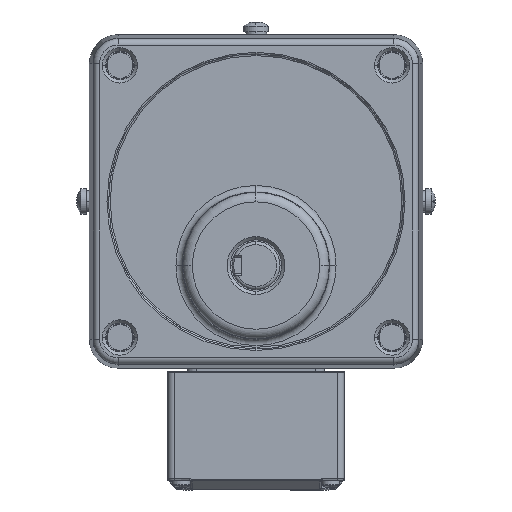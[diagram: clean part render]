
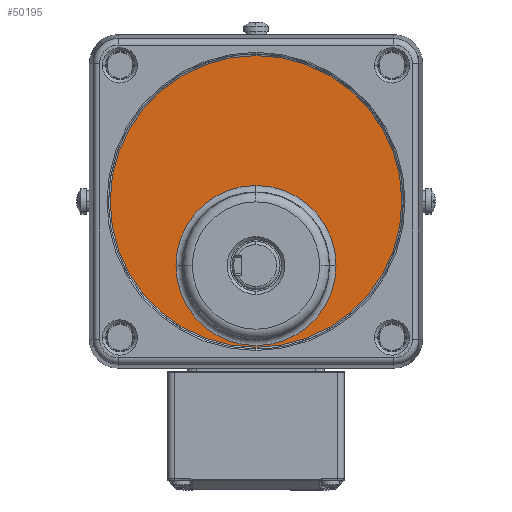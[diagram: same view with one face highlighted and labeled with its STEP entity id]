
A CAD part, left-side view. The second image highlights one B-rep face of the part: STEP entity #50195.
In plain terms, the highlighted planar face has unit normal (-1, 0, 0).
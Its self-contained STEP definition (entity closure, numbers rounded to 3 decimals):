
#202 = AXIS2_PLACEMENT_3D ( 'NONE', #43951, #5357, #22481 ) ;
#3843 = CIRCLE ( 'NONE', #35182, 24.965 ) ;
#3927 = CARTESIAN_POINT ( 'NONE',  ( 2949.725, -773.74, 45.491 ) ) ;
#5357 = DIRECTION ( 'NONE',  ( -1., 0., 0. ) ) ;
#6547 = DIRECTION ( 'NONE',  ( -1., 0., 0. ) ) ;
#6632 = VERTEX_POINT ( 'NONE', #33723 ) ;
#7379 = VERTEX_POINT ( 'NONE', #16690 ) ;
#7734 = ORIENTED_EDGE ( 'NONE', *, *, #24883, .F. ) ;
#8840 = EDGE_CURVE ( 'NONE', #55050, #7379, #3843, .T. ) ;
#10860 = DIRECTION ( 'NONE',  ( -1., 0., 0. ) ) ;
#11988 = VERTEX_POINT ( 'NONE', #18860 ) ;
#12984 = DIRECTION ( 'NONE',  ( -1., 0., 0. ) ) ;
#13063 = EDGE_CURVE ( 'NONE', #11988, #16903, #38130, .T. ) ;
#15086 = FACE_BOUND ( 'NONE', #39198, .T. ) ;
#15688 = CIRCLE ( 'NONE', #22855, 45.491 ) ;
#16690 = CARTESIAN_POINT ( 'NONE',  ( 2949.725, -798.705, -20. ) ) ;
#16903 = VERTEX_POINT ( 'NONE', #3927 ) ;
#17484 = CARTESIAN_POINT ( 'NONE',  ( 2949.725, -773.74, 0. ) ) ;
#18860 = CARTESIAN_POINT ( 'NONE',  ( 2949.725, -773.74, -45.491 ) ) ;
#19866 = CARTESIAN_POINT ( 'NONE',  ( 2949.725, -773.74, 0. ) ) ;
#20750 = EDGE_LOOP ( 'NONE', ( #30433, #7734 ) ) ;
#21063 = AXIS2_PLACEMENT_3D ( 'NONE', #17484, #34597, #51980 ) ;
#22398 = AXIS2_PLACEMENT_3D ( 'NONE', #51692, #12984, #30102 ) ;
#22438 = CARTESIAN_POINT ( 'NONE',  ( 2949.725, -748.775, -20. ) ) ;
#22481 = DIRECTION ( 'NONE',  ( 0., -1., 0. ) ) ;
#22855 = AXIS2_PLACEMENT_3D ( 'NONE', #19866, #36985, #54410 ) ;
#23566 = AXIS2_PLACEMENT_3D ( 'NONE', #49532, #10860, #27988 ) ;
#23663 = DIRECTION ( 'NONE',  ( 0., 1., 0. ) ) ;
#24409 = CIRCLE ( 'NONE', #202, 24.965 ) ;
#24883 = EDGE_CURVE ( 'NONE', #16903, #11988, #15688, .T. ) ;
#27988 = DIRECTION ( 'NONE',  ( 0., 0., 1. ) ) ;
#28266 = ORIENTED_EDGE ( 'NONE', *, *, #8840, .F. ) ;
#30102 = DIRECTION ( 'NONE',  ( 0., -1., 0. ) ) ;
#30433 = ORIENTED_EDGE ( 'NONE', *, *, #13063, .F. ) ;
#32187 = PLANE ( 'NONE',  #23566 ) ;
#33723 = CARTESIAN_POINT ( 'NONE',  ( 2949.725, -773.74, 4.965 ) ) ;
#34597 = DIRECTION ( 'NONE',  ( 1., 0., 0. ) ) ;
#35182 = AXIS2_PLACEMENT_3D ( 'NONE', #45143, #6547, #23663 ) ;
#36832 = EDGE_CURVE ( 'NONE', #7379, #6632, #46784, .T. ) ;
#36985 = DIRECTION ( 'NONE',  ( 1., 0., 0. ) ) ;
#38130 = CIRCLE ( 'NONE', #21063, 45.491 ) ;
#39198 = EDGE_LOOP ( 'NONE', ( #41374, #28266, #39974 ) ) ;
#39974 = ORIENTED_EDGE ( 'NONE', *, *, #42228, .F. ) ;
#41374 = ORIENTED_EDGE ( 'NONE', *, *, #36832, .F. ) ;
#42228 = EDGE_CURVE ( 'NONE', #6632, #55050, #24409, .T. ) ;
#43951 = CARTESIAN_POINT ( 'NONE',  ( 2949.725, -773.74, -20. ) ) ;
#45143 = CARTESIAN_POINT ( 'NONE',  ( 2949.725, -773.74, -20. ) ) ;
#46784 = CIRCLE ( 'NONE', #22398, 24.965 ) ;
#49532 = CARTESIAN_POINT ( 'NONE',  ( 2949.725, -773.74, 0. ) ) ;
#50195 = ADVANCED_FACE ( 'NONE', ( #53831, #15086 ), #32187, .T. ) ;
#51692 = CARTESIAN_POINT ( 'NONE',  ( 2949.725, -773.74, -20. ) ) ;
#51980 = DIRECTION ( 'NONE',  ( 0., 0., -1. ) ) ;
#53831 = FACE_OUTER_BOUND ( 'NONE', #20750, .T. ) ;
#54410 = DIRECTION ( 'NONE',  ( 0., 0., 1. ) ) ;
#55050 = VERTEX_POINT ( 'NONE', #22438 ) ;
